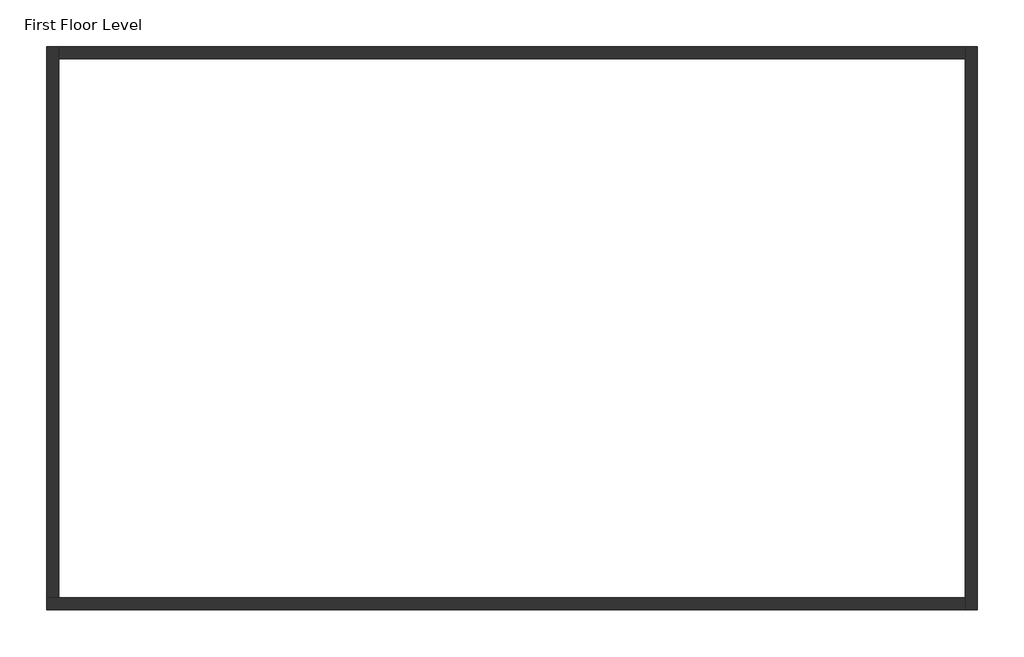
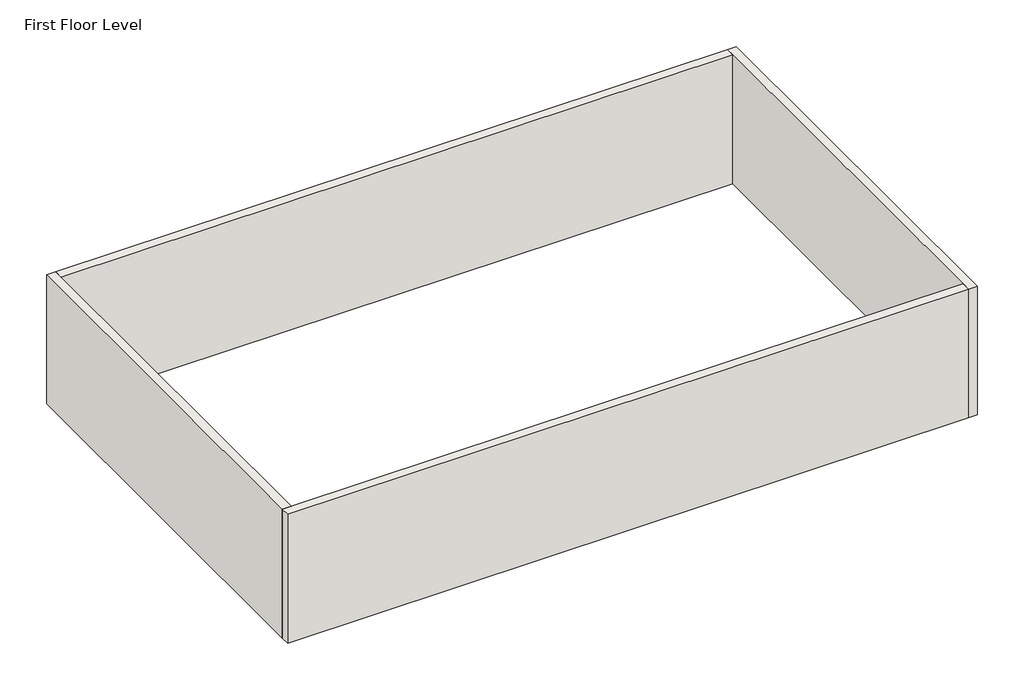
# One storey: 4 walls.
"""IFC4 building model written with IfcOpenShell, lengths in millimetres."""

import ifcopenshell
import ifcopenshell.guid

model = None  # the IFC model being written
_history = None  # IfcOwnerHistory: only IFC2X3 demands one
_inside = {}  # id of a spatial element -> (the spatial element, [elements in it])
_under = {}  # id of a project, library or spatial element -> (it, [spatial elements below it])
_declared = {}  # id of a project -> (the project, [libraries it declares])
_typed = {}  # id of a type object -> (the type object, [elements of that type])
_made_of = {}  # id of a material, layer set ... -> (it, [elements and type objects made of it])


def new_model(schema):
    """Start an empty IFC model of exactly this schema.

    Asked for "IFC4X3", IfcOpenShell would pick the latest addendum, in which some entities
    have other attributes; the version numbers below select the first issue.
    IFC2X3 requires an IfcOwnerHistory on every rooted entity: one is made here for all.
    """
    global model, _history
    if schema == "IFC4X3":
        model = ifcopenshell.file(schema_version=(4, 3, 0, 0))
    else:
        model = ifcopenshell.file(schema=schema)
    _inside.clear()
    _under.clear()
    _declared.clear()
    _typed.clear()
    _made_of.clear()
    _history = None
    if model.schema == "IFC2X3":
        org = make("IfcOrganization", Name="unknown")
        user = make(
            "IfcPersonAndOrganization",
            ThePerson=make("IfcPerson", FamilyName="unknown"),
            TheOrganization=org,
        )
        app = make(
            "IfcApplication",
            ApplicationDeveloper=org,
            Version="unknown",
            ApplicationFullName="unknown",
            ApplicationIdentifier="unknown",
        )
        _history = make(
            "IfcOwnerHistory",
            OwningUser=user,
            OwningApplication=app,
            ChangeAction="ADDED",
            CreationDate=0,
        )
    return model


def make(cls, **values):
    """One entity of the class cls with the attributes given. An attribute that is None is left unset."""
    return model.create_entity(
        cls, **{name: value for name, value in values.items() if value is not None}
    )


def rooted(cls, **values):
    """An entity with a GlobalId (a new one), such as an element, a storey or a relation."""
    return make(cls, GlobalId=ifcopenshell.guid.new(), OwnerHistory=_history, **values)


def si_unit(unit_type, name, prefix=None):
    """IfcSIUnit, for example si_unit("LENGTHUNIT", "METRE", prefix="MILLI")."""
    return make("IfcSIUnit", UnitType=unit_type, Prefix=prefix, Name=name)


def assignment(units):
    """IfcUnitAssignment: the units of a project."""
    return None if units is None else make("IfcUnitAssignment", Units=units)


def point(xyz):
    """IfcCartesianPoint."""
    return None if xyz is None else make("IfcCartesianPoint", Coordinates=xyz)


def direction(xyz):
    """IfcDirection."""
    return None if xyz is None else make("IfcDirection", DirectionRatios=xyz)


def frame(location, z_axis=None, x_axis=None):
    """IfcAxis2Placement3D, a coordinate frame: its origin and axes. An axis left out is left unset."""
    return make(
        "IfcAxis2Placement3D",
        Location=point(location),
        Axis=direction(z_axis),
        RefDirection=direction(x_axis),
    )


def origin():
    """The frame at (0, 0, 0) with its axes left unset."""
    return frame((0.0, 0.0, 0.0))


def origin_with_axes():
    """The frame at (0, 0, 0) with the z axis (0, 0, 1) and the x axis (1, 0, 0) written out."""
    return frame((0.0, 0.0, 0.0), z_axis=(0.0, 0.0, 1.0), x_axis=(1.0, 0.0, 0.0))


def place(relative_to, where):
    """IfcLocalPlacement: puts the frame where relative to a parent placement (None: the world)."""
    return make(
        "IfcLocalPlacement", PlacementRelTo=relative_to, RelativePlacement=where
    )


def context(
    kind, dimensions, precision=None, world=None, true_north=None, identifier=None
):
    """IfcGeometricRepresentationContext, for example the 3D "Model" context."""
    return make(
        "IfcGeometricRepresentationContext",
        ContextIdentifier=identifier,
        ContextType=kind,
        CoordinateSpaceDimension=dimensions,
        Precision=precision,
        WorldCoordinateSystem=world,
        TrueNorth=true_north,
    )


def project(units=None, contexts=None):
    """IfcProject with its units and contexts."""
    return rooted(
        "IfcProject",
        Name="project",
        RepresentationContexts=contexts,
        UnitsInContext=assignment(units),
    )


def spatial(cls, under=None, at=None, **own):
    """A site, building, storey or space (cls), placed at a placement, below another one or the project."""
    s = rooted(cls, ObjectPlacement=at, **own)
    if under is not None:
        _under.setdefault(under.id(), (under, []))[1].append(s)
    return s


def polyline(points):
    """IfcPolyline through the points."""
    return make("IfcPolyline", Points=[point(p) for p in points])


def outline(outer, holes=None, kind="AREA"):
    """IfcArbitraryClosedProfileDef: a profile drawn as a closed curve; with holes, ...WithVoids."""
    if holes is None:
        return make("IfcArbitraryClosedProfileDef", ProfileType=kind, OuterCurve=outer)
    return make(
        "IfcArbitraryProfileDefWithVoids",
        ProfileType=kind,
        OuterCurve=outer,
        InnerCurves=holes,
    )


def extrude(swept, where, along, depth):
    """IfcExtrudedAreaSolid: the profile swept, set in the frame where, extruded along a direction by depth."""
    return make(
        "IfcExtrudedAreaSolid",
        SweptArea=swept,
        Position=where,
        ExtrudedDirection=direction(along),
        Depth=depth,
    )


def faces_of(points, faces, orient=None, outer=None):
    """IfcFace entities. A face is a list of loops; a loop is a list of indices into points, from 0.

    orient and outer hold one flag for each loop. By default every Orientation is true, the
    first loop of a face is its IfcFaceOuterBound and the others are IfcFaceBound.
    """
    made = []
    for i, loops in enumerate(faces):
        bounds = []
        for j, loop in enumerate(loops):
            is_outer = j == 0 if outer is None else outer[i][j]
            bounds.append(
                make(
                    "IfcFaceOuterBound" if is_outer else "IfcFaceBound",
                    Bound=make("IfcPolyLoop", Polygon=[points[k] for k in loop]),
                    Orientation=True if orient is None else orient[i][j],
                )
            )
        made.append(make("IfcFace", Bounds=bounds))
    return made


def faceted_brep(points, faces, orient=None, outer=None, voids=None):
    """IfcFacetedBrep: a solid bounded by flat faces; with voids (closed shells), ...WithVoids."""
    shared = [point(p) for p in points]
    hull = make("IfcClosedShell", CfsFaces=faces_of(shared, faces, orient, outer))
    if voids is None:
        return make("IfcFacetedBrep", Outer=hull)
    return make(
        "IfcFacetedBrepWithVoids",
        Outer=hull,
        Voids=[
            make(cls, CfsFaces=faces_of(shared, fs, o, b)) for cls, fs, o, b in voids
        ],
    )


def shape(context_of_items, identifier, shape_type, items):
    """IfcShapeRepresentation: the items that make up one representation, for example the "Body"."""
    return make(
        "IfcShapeRepresentation",
        ContextOfItems=context_of_items,
        RepresentationIdentifier=identifier,
        RepresentationType=shape_type,
        Items=items,
    )


def made_of(thing, what):
    """Note that an element or type object is made of a material, layer set ...; save() writes the relation."""
    if what is not None:
        _made_of.setdefault(what.id(), (what, []))[1].append(thing)
    return thing


def element(
    cls,
    number,
    at=None,
    inside=None,
    cuts=None,
    type_object=None,
    material=None,
    context=None,
    identifier="Body",
    shape_type=None,
    held_by="IfcProductDefinitionShape",
    body=None,
    shapes=None,
    **own,
):
    """One element of the class cls, such as IfcWall. Its Tag is "e" and its number.

    at: its placement. inside: the storey or other place that contains it. cuts: it is an
    opening in that element (IfcRelVoidsElement). A single representation is given by context,
    identifier, shape_type and body (its items); several are given by shapes. held_by: the class
    of the entity that holds the representations. save() writes the other relations.
    """
    e = rooted(cls, Tag="e%d" % number, ObjectPlacement=at, **own)
    if body is not None:
        shapes = [shape(context, identifier, shape_type, body)]
    if shapes is not None:
        e.Representation = make(held_by, Representations=shapes)
    if inside is not None:
        _inside.setdefault(inside.id(), (inside, []))[1].append(e)
    if cuts is not None:
        rooted(
            "IfcRelVoidsElement", RelatingBuildingElement=cuts, RelatedOpeningElement=e
        )
    if type_object is not None:
        _typed.setdefault(type_object.id(), (type_object, []))[1].append(e)
    return made_of(e, material)


def aggregate(whole, parts):
    """IfcRelAggregates: a whole, such as a stair, and the parts it consists of."""
    return rooted("IfcRelAggregates", RelatingObject=whole, RelatedObjects=parts)


def save(model, path):
    """Write the relations noted so far, then the file.

    IfcRelAggregates (storeys below a building ...), IfcRelContainedInSpatialStructure (elements
    in a storey), IfcRelDefinesByType, IfcRelAssociatesMaterial and IfcRelDeclares: one each for
    every whole, place, type object, material and project.
    """
    for whole, parts in _under.values():
        aggregate(whole, parts)
    for where, things in _inside.values():
        rooted(
            "IfcRelContainedInSpatialStructure",
            RelatedElements=things,
            RelatingStructure=where,
        )
    for kind, things in _typed.values():
        rooted("IfcRelDefinesByType", RelatedObjects=things, RelatingType=kind)
    for what, things in _made_of.values():
        rooted("IfcRelAssociatesMaterial", RelatedObjects=things, RelatingMaterial=what)
    for by, libraries in _declared.values():
        rooted("IfcRelDeclares", RelatingContext=by, RelatedDefinitions=libraries)
    model.write(path)


model = new_model("IFC4")

# Units and contexts
model_context = context("Model", 3, world=origin())
ifc_project = project(units=[si_unit("LENGTHUNIT", "METRE", prefix="MILLI")], contexts=[model_context])

# Site, building, storey
site = spatial("IfcSite", under=ifc_project)
building = spatial("IfcBuilding", under=site)
storey = spatial("IfcBuildingStorey", under=building, Name="First Floor Level", Elevation=0.0)

# Walls
placement = place(None, origin())
element("IfcWall", 1, ObjectType="Generic - 8\"", at=placement, inside=storey, context=model_context, shape_type="Brep", body=[
    faceted_brep([(-11062.1324207, -4509.9593364, 0.0), (4177.8675793, -4509.9593364, 0.0), (4177.8675793, -4509.9593364, 3048.0), (-11062.1324207, -4509.9593364, 3048.0), (-11062.1324207, -4306.7593364, 0.0), (-11062.1324207, -4306.7593364, 3048.0), (-10858.9324207, -4306.7593364, 3048.0), (4177.8675793, -4306.7593364, 3048.0), (4177.8675793, -4306.7593364, 0.0), (-10858.9324207, -4306.7593364, 0.0)], [[[0, 1, 2, 3]], [[4, 5, 6, 7, 8, 9]], [[1, 0, 4, 9, 8]], [[3, 2, 7, 6, 5]], [[0, 3, 5, 4]], [[2, 1, 8, 7]]]),
])
element("IfcWall", 2, ObjectType="Generic - 8\"", at=placement, inside=storey, context=model_context, shape_type="Brep", body=[
    faceted_brep([(-11062.1324207, 4837.2406636, 0.0), (-11062.1324207, -4306.7593364, 0.0), (-11062.1324207, -4306.7593364, 3048.0), (-11062.1324207, 4837.2406636, 3048.0), (-10858.9324207, 4837.2406636, 0.0), (-10858.9324207, 4837.2406636, 3048.0), (-10858.9324207, 4634.0406636, 3048.0), (-10858.9324207, -4306.7593364, 3048.0), (-10858.9324207, -4306.7593364, 0.0), (-10858.9324207, 4634.0406636, 0.0)], [[[0, 1, 2, 3]], [[4, 5, 6, 7, 8, 9]], [[1, 0, 4, 9, 8]], [[3, 2, 7, 6, 5]], [[0, 3, 5, 4]], [[2, 1, 8, 7]]]),
])
element("IfcWall", 3, ObjectType="Generic - 8\"", at=placement, inside=storey, context=model_context, shape_type="SweptSolid", body=[
    extrude(outline(polyline([(-10858.9324207, 4837.2406636), (4177.8675793, 4837.2406636), (4177.8675793, 4634.0406636), (-10858.9324207, 4634.0406636), (-10858.9324207, 4837.2406636)])), origin_with_axes(), (0.0, 0.0, 1.0), 3048.0),
])
element("IfcWall", 4, ObjectType="Generic - 8\"", at=placement, inside=storey, context=model_context, shape_type="Brep", body=[
    faceted_brep([(4381.0675793, -4509.9593364, 0.0), (4381.0675793, 4837.2406636, 0.0), (4381.0675793, 4837.2406636, 3048.0), (4381.0675793, -4509.9593364, 3048.0), (4177.8675793, -4509.9593364, 0.0), (4177.8675793, -4509.9593364, 3048.0), (4177.8675793, -4306.7593364, 3048.0), (4177.8675793, 4634.0406636, 3048.0), (4177.8675793, 4837.2406636, 3048.0), (4177.8675793, 4837.2406636, 0.0), (4177.8675793, 4634.0406636, 0.0), (4177.8675793, -4306.7593364, 0.0)], [[[0, 1, 2, 3]], [[4, 5, 6, 7, 8, 9, 10, 11]], [[1, 0, 4, 11, 10, 9]], [[3, 2, 8, 7, 6, 5]], [[0, 3, 5, 4]], [[2, 1, 9, 8]]]),
])

save(model, "model.ifc")
